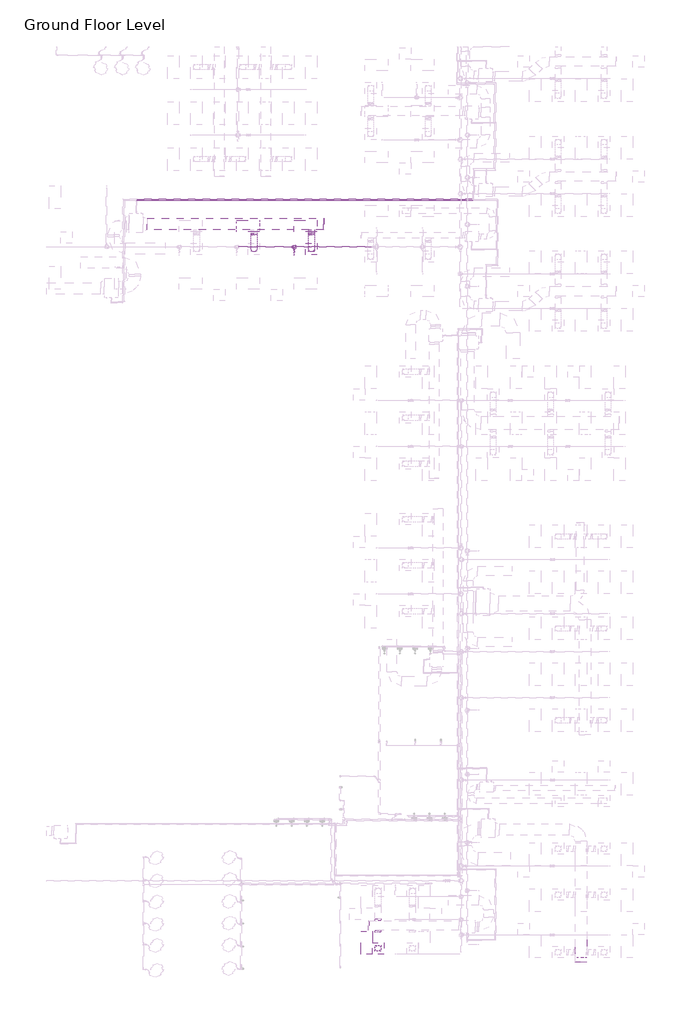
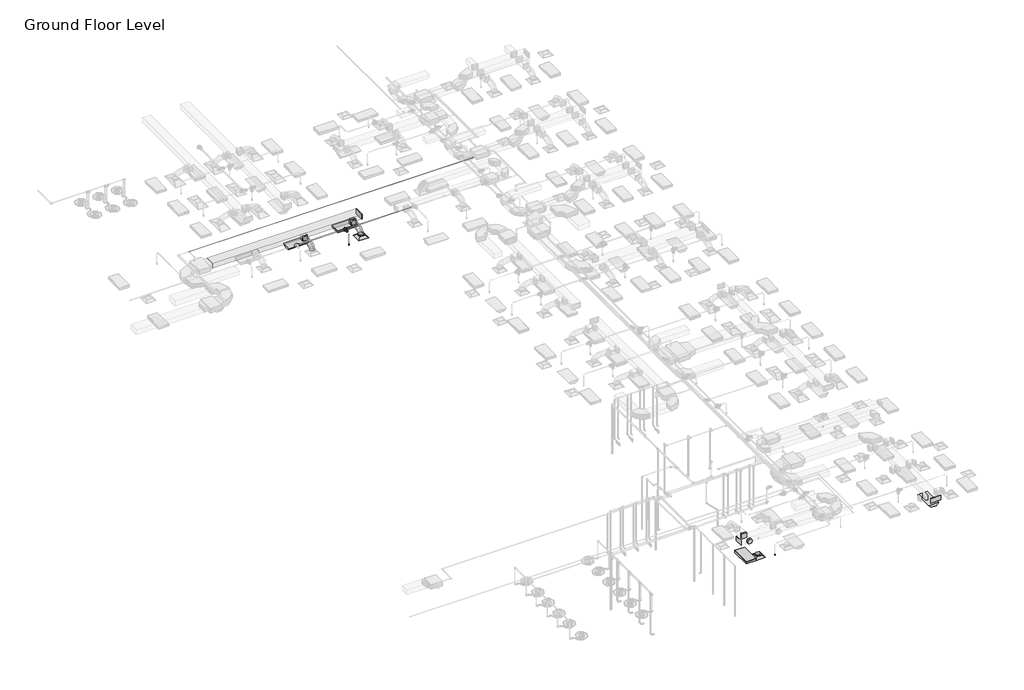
# One storey, part 13 of 72: 10 duct fittings, 6 pipe segments, 5 duct segments, 4 light fixtures, 2 air terminals, 2 fire suppression terminals, 2 pipe fittings.
"""IFC4 building model written with IfcOpenShell, lengths in millimetres."""

from ifc_helpers import new_model, si_unit, point, frame, frame_2d, origin, place, context, project, spatial, polyline, circle_curve, ellipse_curve, trimmed, segment, composite_curve, outline, extrude, transform, mapped, element, save
from ifc_brep_helpers import plane_surface, cylinder_surface, advanced_brep
from components import m_return_diffuser_600_x_600_face_300_x_300_connection_ff221211, m_rectangular_endcap_standard_72d4d00d, m_rectangular_endcap_standard_0f0ff112, m_rectangular_takeoff_standard_2be5eba1, m_rectangular_to_round_transition_angle_45_degree_641efff0, m_round_takeoff_standard_603b0510, m_sprinkler_dry_pendent_hosted_15_mm_dry_pendent_9bda8e11, m_emergency_recessed_lighting_fixture_600x1200_277_5b10b25d, m_troffer_light_parabolic_rectangular1_0600x1200mm_4_lamp_86473d4a, m_reducer_flanged_cs_class_150_standard_678fb8eb, m_tee_round_base_flanged_cs_class_150_standard_9c9133d0

model = new_model("IFC4")

# Units and contexts
model_context = context("Model", 3, world=origin())
ifc_project = project(units=[si_unit("LENGTHUNIT", "METRE", prefix="MILLI")], contexts=[model_context])

# Site, building, storey
site = spatial("IfcSite", under=ifc_project)
building = spatial("IfcBuilding", under=site)
storey = spatial("IfcBuildingStorey", under=building, Name="Ground Floor Level", Elevation=900.0)

# Air terminals
placement = place(None, origin())
m_return_diffuser_600_x_600_face_300_x_300_connection_shape = m_return_diffuser_600_x_600_face_300_x_300_connection_ff221211(model_context)
element("IfcAirTerminal", 1, ObjectType="M_Supply Diffuser : 600 x 600 Face 300 x 300 Connection", at=placement, inside=storey, context=model_context, shape_type="MappedRepresentation", body=[
    mapped(m_return_diffuser_600_x_600_face_300_x_300_connection_shape, transform((-2137.2327605, -3064.7846466, 3650.0), x_axis=(1.0, 0.0, 0.0), y_axis=(0.0, 1.0, 0.0), z_axis=(0.0, 0.0, 1.0))),
])
element("IfcAirTerminal", 2, ObjectType="M_Supply Diffuser : 600 x 600 Face 300 x 300 Connection", at=placement, inside=storey, context=model_context, shape_type="MappedRepresentation", body=[
    mapped(m_return_diffuser_600_x_600_face_300_x_300_connection_shape, transform((1342.7672394, -39564.7846466, 3650.0), x_axis=(1.0, 0.0, 0.0), y_axis=(0.0, 1.0, 0.0), z_axis=(0.0, 0.0, 1.0))),
])

# Duct fittings
m_rectangular_endcap_standard_shape = m_rectangular_endcap_standard_72d4d00d(model_context)
element("IfcDuctFitting", 3, ObjectType="M_Rectangular Endcap : Standard", at=placement, inside=storey, context=model_context, shape_type="MappedRepresentation", body=[
    mapped(m_rectangular_endcap_standard_shape, transform((877.3672394, -38372.6128682, 4100.0), x_axis=(-0.9999999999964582, 0.0, -2.6615447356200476e-06), y_axis=(0.0, -1.0000000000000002, 0.0), z_axis=(-2.6615447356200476e-06, 0.0, 0.9999999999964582))),
])
m_rectangular_endcap_standard_2_shape = m_rectangular_endcap_standard_0f0ff112(model_context)
element("IfcDuctFitting", 4, ObjectType="M_Rectangular Endcap : Standard", at=placement, inside=storey, context=model_context, shape_type="MappedRepresentation", body=[
    mapped(m_rectangular_endcap_standard_2_shape, transform((-1501.8327605, -1768.2846466, 4099.9873731), x_axis=(0.9999999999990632, 0.0, -1.368824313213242e-06), y_axis=(0.0, 1.0, 0.0), z_axis=(1.368824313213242e-06, 0.0, 0.9999999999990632))),
])
element("IfcDuctFitting", 5, ObjectType="M_Rectangular Endcap : Standard", at=placement, inside=storey, context=model_context, shape_type="MappedRepresentation", body=[
    mapped(m_rectangular_endcap_standard_2_shape, transform((11933.8644074, -40264.7726336, 4099.9875), x_axis=(0.0, -1.0, 0.0), y_axis=(1.0, 0.0, 0.0), z_axis=(0.0, 0.0, 1.0))),
])
m_rectangular_takeoff_standard_shape = m_rectangular_takeoff_standard_2be5eba1(model_context)
element("IfcDuctFitting", 6, ObjectType="M_Rectangular Takeoff : Standard", at=placement, inside=storey, context=model_context, shape_type="MappedRepresentation", body=[
    mapped(m_rectangular_takeoff_standard_shape, transform((-2137.2327605, -2068.2846466, 4099.9882429), x_axis=(0.0, -1.0, 0.0), y_axis=(-1.0, 0.0, 0.0), z_axis=(0.0, 0.0, -1.0))),
])
element("IfcDuctFitting", 7, ObjectType="M_Rectangular Takeoff : Standard", at=placement, inside=storey, context=model_context, shape_type="MappedRepresentation", body=[
    mapped(m_rectangular_takeoff_standard_shape, transform((1342.7672394, -38122.6128682, 4100.0), x_axis=(0.0, 1.0, 0.0), y_axis=(1.0, 0.0, 0.0), z_axis=(0.0, 0.0, -1.0))),
])
m_rectangular_to_round_transition_angle_45_degree_shape = m_rectangular_to_round_transition_angle_45_degree_641efff0(model_context)
element("IfcDuctFitting", 8, ObjectType="M_Rectangular to Round Transition - Angle : 45 Degree", at=placement, inside=storey, context=model_context, shape_type="MappedRepresentation", body=[
    mapped(m_rectangular_to_round_transition_angle_45_degree_shape, transform((-2137.2327605, -3064.7846466, 3751.6), x_axis=(0.0, 0.0, 1.0), y_axis=(-1.0, 0.0, 0.0), z_axis=(0.0, -1.0, 0.0))),
])
element("IfcDuctFitting", 9, ObjectType="M_Rectangular to Round Transition - Angle : 45 Degree", at=placement, inside=storey, context=model_context, shape_type="MappedRepresentation", body=[
    mapped(m_rectangular_to_round_transition_angle_45_degree_shape, transform((-2137.2327605, -2237.4369582, 4099.9882429), x_axis=(0.0, -1.0, 0.0), y_axis=(1.0, 0.0, 0.0), z_axis=(0.0, 0.0, 1.0))),
])
element("IfcDuctFitting", 10, ObjectType="M_Rectangular to Round Transition - Angle : 45 Degree", at=placement, inside=storey, context=model_context, shape_type="MappedRepresentation", body=[
    mapped(m_rectangular_to_round_transition_angle_45_degree_shape, transform((-5137.2327605, -2237.4410647, 4099.9923494), x_axis=(0.0, -1.0, 0.0), y_axis=(1.0, 0.0, 0.0), z_axis=(0.0, 0.0, 1.0))),
])
element("IfcDuctFitting", 11, ObjectType="M_Rectangular to Round Transition - Angle : 45 Degree", at=placement, inside=storey, context=model_context, shape_type="MappedRepresentation", body=[
    mapped(m_rectangular_to_round_transition_angle_45_degree_shape, transform((1342.7672394, -39564.7846466, 3751.6), x_axis=(0.0, 0.0, 1.0), y_axis=(-1.0, 0.0, 0.0), z_axis=(0.0, -1.0, 0.0))),
])
m_round_takeoff_standard_shape = m_round_takeoff_standard_603b0510(model_context)
element("IfcDuctFitting", 12, ObjectType="M_Round Takeoff : Standard", at=placement, inside=storey, context=model_context, shape_type="MappedRepresentation", body=[
    mapped(m_round_takeoff_standard_shape, transform((1342.7672394, -38622.6128682, 4100.0), x_axis=(0.0, -1.0, 0.0), y_axis=(-1.0, 0.0, 0.0), z_axis=(0.0, 0.0, -1.0))),
])

# Duct segments
element("IfcDuctSegment", 13, ObjectType="Flex - Round", at=placement, inside=storey, context=model_context, shape_type="AdvancedBrep", body=[
    advanced_brep(
    [(-1987.2327605, -3064.7846466, 3826.6), (-2137.2327605, -3214.7846466, 3826.6), (-2287.2327605, -3064.7846466, 3826.6), (-2137.2327605, -2914.7846466, 3826.6), (-1987.2327605, -3064.7846466, 3857.9382049), (-2137.2327605, -3214.7846466, 3883.5820304), (-2287.2327605, -3064.7846466, 3857.9382049), (-2137.2327605, -2914.7846466, 3832.2943795), (-1987.2327605, -3047.768388, 3906.2507872), (-2137.2327605, -3181.5056265, 3978.0678652), (-2287.2327605, -3047.768388, 3906.2507872), (-2137.2327605, -2914.0311496, 3834.4337093), (-1987.2327605, -3000.5836201, 3968.710775), (-2137.2327605, -3104.787507, 4079.622096), (-2287.2327605, -3000.5836201, 3968.710775), (-2137.2327605, -2896.3797333, 3857.7994541), (-1987.2327605, -2929.0263545, 4016.0680579), (-2137.2327605, -2997.957239, 4150.3233892), (-2287.2327605, -2929.0263545, 4016.0680579), (-2137.2327605, -2860.09547, 3881.8127266), (-1987.2327605, -2838.8926027, 4050.4107303), (-2137.2327605, -2882.4498996, 4194.3338808), (-2287.2327605, -2838.8926027, 4050.4107303), (-2137.2327605, -2795.3353058, 3906.4875799), (-1987.2327605, -2735.9783764, 4073.8268868), (-2137.2327605, -2762.5360145, 4221.6179832), (-2287.2327605, -2735.9783764, 4073.8268868), (-2137.2327605, -2709.4207382, 3926.0357904), (-1987.2327605, -2626.0796872, 4088.4046218), (-2137.2327605, -2641.2277335, 4237.7091667), (-2287.2327605, -2626.0796872, 4088.4046218), (-2137.2327605, -2610.9316408, 3939.1000769), (-1987.2327605, -2514.9925467, 4096.2320299), (-2137.2327605, -2522.4956529, 4246.0752516), (-2287.2327605, -2514.9925467, 4096.2320299), (-2137.2327605, -2507.4894404, 3946.3888082), (-1987.2327605, -2408.5129665, 4099.3972054), (-2137.2327605, -2411.2031539, 4249.3834943), (-2287.2327605, -2408.5129665, 4099.3972054), (-2137.2327605, -2405.822779, 3949.4109165), (-1987.2327605, -2312.4369582, 4099.9882429), (-2137.2327605, -2311.5142102, 3949.9910811), (-2287.2327605, -2312.4369582, 4099.9882429), (-2137.2327605, -2313.3597063, 4249.9854047)],
    [
        (0, 1, circle_curve(frame((-2137.2327605, -3064.7846466, 3826.6), z_axis=(0.0, 0.0, -1.0), x_axis=(1.0, 0.0, 0.0)), 150.0)),
        (1, 2, circle_curve(frame((-2137.2327605, -3064.7846466, 3826.6), z_axis=(0.0, 0.0, -1.0), x_axis=(1.0, 0.0, 0.0)), 150.0)),
        (2, 3, circle_curve(frame((-2137.2327605, -3064.7846466, 3826.6), z_axis=(0.0, 0.0, -1.0), x_axis=(1.0, 0.0, 0.0)), 150.0)),
        (3, 0, circle_curve(frame((-2137.2327605, -3064.7846466, 3826.6), z_axis=(0.0, 0.0, -1.0), x_axis=(1.0, 0.0, 0.0)), 150.0)),
        (0, 4),
        (4, 5, ellipse_curve(frame((-2137.2327605, -3064.7846466, 3857.9382049), z_axis=(0.0, -0.1685139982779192, -0.9856992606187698), x_axis=(0.0, 0.9856992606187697, -0.1685139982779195)), 152.1762326, 150.0)),
        (5, 1),
        (5, 6, ellipse_curve(frame((-2137.2327605, -3064.7846466, 3857.9382049), z_axis=(0.0, -0.1685139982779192, -0.9856992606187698), x_axis=(0.0, 0.9856992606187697, -0.1685139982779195)), 152.1762326, 150.0)),
        (6, 2),
        (6, 7, ellipse_curve(frame((-2137.2327605, -3064.7846466, 3857.9382049), z_axis=(0.0, -0.1685139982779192, -0.9856992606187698), x_axis=(0.0, 0.9856992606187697, -0.1685139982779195)), 152.1762326, 150.0)),
        (7, 3),
        (7, 4, ellipse_curve(frame((-2137.2327605, -3064.7846466, 3857.9382049), z_axis=(0.0, -0.1685139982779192, -0.9856992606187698), x_axis=(0.0, 0.9856992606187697, -0.1685139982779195)), 152.1762326, 150.0)),
        (4, 8),
        (8, 9, ellipse_curve(frame((-2137.2327605, -3047.768388, 3906.2507872), z_axis=(0.0, -0.4731022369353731, -0.8810075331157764), x_axis=(0.0, 0.8810075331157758, -0.47310223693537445)), 151.8003348, 150.0)),
        (9, 5),
        (9, 10, ellipse_curve(frame((-2137.2327605, -3047.768388, 3906.2507872), z_axis=(0.0, -0.4731022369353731, -0.8810075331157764), x_axis=(0.0, 0.8810075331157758, -0.47310223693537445)), 151.8003348, 150.0)),
        (10, 6),
        (10, 11, ellipse_curve(frame((-2137.2327605, -3047.768388, 3906.2507872), z_axis=(0.0, -0.4731022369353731, -0.8810075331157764), x_axis=(0.0, 0.8810075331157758, -0.47310223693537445)), 151.8003348, 150.0)),
        (11, 7),
        (11, 8, ellipse_curve(frame((-2137.2327605, -3047.768388, 3906.2507872), z_axis=(0.0, -0.4731022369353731, -0.8810075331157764), x_axis=(0.0, 0.8810075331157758, -0.47310223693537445)), 151.8003348, 150.0)),
        (8, 12),
        (12, 13, ellipse_curve(frame((-2137.2327605, -3000.5836201, 3968.710775), z_axis=(0.0, -0.728800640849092, -0.6847259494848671), x_axis=(0.0, 0.6847259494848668, -0.7288006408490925)), 152.1833472, 150.0)),
        (13, 9),
        (13, 14, ellipse_curve(frame((-2137.2327605, -3000.5836201, 3968.710775), z_axis=(0.0, -0.728800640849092, -0.6847259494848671), x_axis=(0.0, 0.6847259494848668, -0.7288006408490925)), 152.1833472, 150.0)),
        (14, 10),
        (14, 15, ellipse_curve(frame((-2137.2327605, -3000.5836201, 3968.710775), z_axis=(0.0, -0.728800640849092, -0.6847259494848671), x_axis=(0.0, 0.6847259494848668, -0.7288006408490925)), 152.1833472, 150.0)),
        (15, 11),
        (15, 12, ellipse_curve(frame((-2137.2327605, -3000.5836201, 3968.710775), z_axis=(0.0, -0.728800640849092, -0.6847259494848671), x_axis=(0.0, 0.6847259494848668, -0.7288006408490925)), 152.1833472, 150.0)),
        (12, 16),
        (16, 17, ellipse_curve(frame((-2137.2327605, -2929.0263545, 4016.0680579), z_axis=(0.0, -0.8895967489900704, -0.456746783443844), x_axis=(0.0, 0.45674678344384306, -0.8895967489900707)), 150.917066, 150.0)),
        (17, 13),
        (17, 18, ellipse_curve(frame((-2137.2327605, -2929.0263545, 4016.0680579), z_axis=(0.0, -0.8895967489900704, -0.456746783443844), x_axis=(0.0, 0.45674678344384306, -0.8895967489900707)), 150.917066, 150.0)),
        (18, 14),
        (18, 19, ellipse_curve(frame((-2137.2327605, -2929.0263545, 4016.0680579), z_axis=(0.0, -0.8895967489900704, -0.456746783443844), x_axis=(0.0, 0.45674678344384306, -0.8895967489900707)), 150.917066, 150.0)),
        (19, 15),
        (19, 16, ellipse_curve(frame((-2137.2327605, -2929.0263545, 4016.0680579), z_axis=(0.0, -0.8895967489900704, -0.456746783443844), x_axis=(0.0, 0.45674678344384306, -0.8895967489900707)), 150.917066, 150.0)),
        (16, 20),
        (20, 21, ellipse_curve(frame((-2137.2327605, -2838.8926027, 4050.4107303), z_axis=(0.0, -0.9571272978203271, -0.2896676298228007), x_axis=(0.0, 0.28966762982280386, -0.957127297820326)), 150.369915, 150.0)),
        (21, 17),
        (21, 22, ellipse_curve(frame((-2137.2327605, -2838.8926027, 4050.4107303), z_axis=(0.0, -0.9571272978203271, -0.2896676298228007), x_axis=(0.0, 0.28966762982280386, -0.957127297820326)), 150.369915, 150.0)),
        (22, 18),
        (22, 23, ellipse_curve(frame((-2137.2327605, -2838.8926027, 4050.4107303), z_axis=(0.0, -0.9571272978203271, -0.2896676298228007), x_axis=(0.0, 0.28966762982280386, -0.957127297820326)), 150.369915, 150.0)),
        (23, 19),
        (23, 20, ellipse_curve(frame((-2137.2327605, -2838.8926027, 4050.4107303), z_axis=(0.0, -0.9571272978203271, -0.2896676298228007), x_axis=(0.0, 0.28966762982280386, -0.957127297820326)), 150.369915, 150.0)),
        (20, 24),
        (24, 25, ellipse_curve(frame((-2137.2327605, -2735.9783764, 4073.8268868), z_axis=(0.0, -0.9842352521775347, -0.1768642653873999), x_axis=(0.0, 0.1768642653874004, -0.9842352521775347)), 150.1583042, 150.0)),
        (25, 21),
        (25, 26, ellipse_curve(frame((-2137.2327605, -2735.9783764, 4073.8268868), z_axis=(0.0, -0.9842352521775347, -0.1768642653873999), x_axis=(0.0, 0.1768642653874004, -0.9842352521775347)), 150.1583042, 150.0)),
        (26, 22),
        (26, 27, ellipse_curve(frame((-2137.2327605, -2735.9783764, 4073.8268868), z_axis=(0.0, -0.9842352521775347, -0.1768642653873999), x_axis=(0.0, 0.1768642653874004, -0.9842352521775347)), 150.1583042, 150.0)),
        (27, 23),
        (27, 24, ellipse_curve(frame((-2137.2327605, -2735.9783764, 4073.8268868), z_axis=(0.0, -0.9842352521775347, -0.1768642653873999), x_axis=(0.0, 0.1768642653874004, -0.9842352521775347)), 150.1583042, 150.0)),
        (24, 28),
        (28, 29, ellipse_curve(frame((-2137.2327605, -2626.0796872, 4088.4046218), z_axis=(0.0, -0.9948925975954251, -0.10093918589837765), x_axis=(0.0, 0.10093918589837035, -0.9948925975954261)), 150.071018, 150.0)),
        (29, 25),
        (29, 30, ellipse_curve(frame((-2137.2327605, -2626.0796872, 4088.4046218), z_axis=(0.0, -0.9948925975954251, -0.10093918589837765), x_axis=(0.0, 0.10093918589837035, -0.9948925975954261)), 150.071018, 150.0)),
        (30, 26),
        (30, 31, ellipse_curve(frame((-2137.2327605, -2626.0796872, 4088.4046218), z_axis=(0.0, -0.9948925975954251, -0.10093918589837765), x_axis=(0.0, 0.10093918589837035, -0.9948925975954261)), 150.071018, 150.0)),
        (31, 27),
        (31, 28, ellipse_curve(frame((-2137.2327605, -2626.0796872, 4088.4046218), z_axis=(0.0, -0.9948925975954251, -0.10093918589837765), x_axis=(0.0, 0.10093918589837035, -0.9948925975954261)), 150.071018, 150.0)),
        (28, 32),
        (32, 33, ellipse_curve(frame((-2137.2327605, -2514.9925467, 4096.2320299), z_axis=(0.0, -0.9987486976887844, -0.050010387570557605), x_axis=(0.0, 0.05001038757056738, -0.9987486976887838)), 150.0309558, 150.0)),
        (33, 29),
        (33, 34, ellipse_curve(frame((-2137.2327605, -2514.9925467, 4096.2320299), z_axis=(0.0, -0.9987486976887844, -0.050010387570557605), x_axis=(0.0, 0.05001038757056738, -0.9987486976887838)), 150.0309558, 150.0)),
        (34, 30),
        (34, 35, ellipse_curve(frame((-2137.2327605, -2514.9925467, 4096.2320299), z_axis=(0.0, -0.9987486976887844, -0.050010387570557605), x_axis=(0.0, 0.05001038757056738, -0.9987486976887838)), 150.0309558, 150.0)),
        (35, 31),
        (35, 32, ellipse_curve(frame((-2137.2327605, -2514.9925467, 4096.2320299), z_axis=(0.0, -0.9987486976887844, -0.050010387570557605), x_axis=(0.0, 0.05001038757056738, -0.9987486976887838)), 150.0309558, 150.0)),
        (32, 36),
        (36, 37, ellipse_curve(frame((-2137.2327605, -2408.5129665, 4099.3972054), z_axis=(0.0, -0.9998391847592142, -0.017933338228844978), x_axis=(0.0, 0.017933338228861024, -0.9998391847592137)), 150.0104128, 150.0)),
        (37, 33),
        (37, 38, ellipse_curve(frame((-2137.2327605, -2408.5129665, 4099.3972054), z_axis=(0.0, -0.9998391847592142, -0.017933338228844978), x_axis=(0.0, 0.017933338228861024, -0.9998391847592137)), 150.0104128, 150.0)),
        (38, 34),
        (38, 39, ellipse_curve(frame((-2137.2327605, -2408.5129665, 4099.3972054), z_axis=(0.0, -0.9998391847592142, -0.017933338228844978), x_axis=(0.0, 0.017933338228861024, -0.9998391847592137)), 150.0104128, 150.0)),
        (39, 35),
        (39, 36, ellipse_curve(frame((-2137.2327605, -2408.5129665, 4099.3972054), z_axis=(0.0, -0.9998391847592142, -0.017933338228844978), x_axis=(0.0, 0.017933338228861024, -0.9998391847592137)), 150.0104128, 150.0)),
        (40, 41, circle_curve(frame((-2137.2327605, -2312.4369582, 4099.9882429), z_axis=(0.0, 0.9999810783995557, 0.006151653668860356), x_axis=(1.0, 0.0, 0.0)), 150.0)),
        (41, 42, circle_curve(frame((-2137.2327605, -2312.4369582, 4099.9882429), z_axis=(0.0, 0.9999810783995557, 0.006151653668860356), x_axis=(1.0, 0.0, 0.0)), 150.0)),
        (42, 43, circle_curve(frame((-2137.2327605, -2312.4369582, 4099.9882429), z_axis=(0.0, 0.9999810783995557, 0.006151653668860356), x_axis=(1.0, 0.0, 0.0)), 150.0)),
        (43, 40, circle_curve(frame((-2137.2327605, -2312.4369582, 4099.9882429), z_axis=(0.0, 0.9999810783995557, 0.006151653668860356), x_axis=(1.0, 0.0, 0.0)), 150.0)),
        (36, 40),
        (43, 37),
        (42, 38),
        (41, 39),
    ],
    [
        plane_surface(frame((-2137.2327605, -3214.7846466, 3826.6), z_axis=(0.0, 0.0, -1.0), x_axis=(1.0, 0.0, 0.0))),
        cylinder_surface(frame((-2137.2327605, -3064.7846466, 3826.6), z_axis=(0.0, 0.0, -1.0), x_axis=(1.0, 0.0, 0.0)), 150.0),
        cylinder_surface(frame((-2137.2327605, -3064.7846466, 3857.9382049), z_axis=(0.0, -0.33220824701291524, -0.9432060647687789), x_axis=(1.0, 0.0, 0.0)), 150.0),
        cylinder_surface(frame((-2137.2327605, -3047.768388, 3906.2507872), z_axis=(0.0, -0.6027743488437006, -0.7979117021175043), x_axis=(1.0, 0.0, 0.0)), 150.0),
        cylinder_surface(frame((-2137.2327605, -3000.5836201, 3968.710775), z_axis=(0.0, -0.83391498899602, -0.5518929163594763), x_axis=(1.0, 0.0, 0.0)), 150.0),
        cylinder_surface(frame((-2137.2327605, -2929.0263545, 4016.0680579), z_axis=(0.0, -0.9344670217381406, -0.3560496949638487), x_axis=(1.0, 0.0, 0.0)), 150.0),
        cylinder_surface(frame((-2137.2327605, -2838.8926027, 4050.4107303), z_axis=(0.0, -0.9750784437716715, -0.2218603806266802), x_axis=(1.0, 0.0, 0.0)), 150.0),
        cylinder_surface(frame((-2137.2327605, -2735.9783764, 4073.8268868), z_axis=(0.0, -0.9913168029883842, -0.13149523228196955), x_axis=(1.0, 0.0, 0.0)), 150.0),
        cylinder_surface(frame((-2137.2327605, -2626.0796872, 4088.4046218), z_axis=(0.0, -0.9975267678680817, -0.07028760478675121), x_axis=(1.0, 0.0, 0.0)), 150.0),
        cylinder_surface(frame((-2137.2327605, -2514.9925467, 4096.2320299), z_axis=(0.0, -0.9995584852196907, -0.02971253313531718), x_axis=(1.0, 0.0, 0.0)), 150.0),
        plane_surface(frame((-2137.2327605, -2313.3597063, 4249.9854047), z_axis=(0.0, 0.9999810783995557, 0.006151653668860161), x_axis=(1.0, 0.0, 0.0))),
        cylinder_surface(frame((-2137.2327605, -2408.5129665, 4099.3972054), z_axis=(0.0, -0.9999810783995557, -0.006151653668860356), x_axis=(1.0, 0.0, 0.0)), 150.0),
    ],
    [
        (0, [[1, 2, 3, 4]]),
        (1, [[-1, 5, 6, 7]]),
        (1, [[-2, -7, 8, 9]]),
        (1, [[-3, -9, 10, 11]]),
        (1, [[-4, -11, 12, -5]]),
        (2, [[-6, 13, 14, 15]]),
        (2, [[-8, -15, 16, 17]]),
        (2, [[-10, -17, 18, 19]]),
        (2, [[-12, -19, 20, -13]]),
        (3, [[-14, 21, 22, 23]]),
        (3, [[-16, -23, 24, 25]]),
        (3, [[-18, -25, 26, 27]]),
        (3, [[-20, -27, 28, -21]]),
        (4, [[-22, 29, 30, 31]]),
        (4, [[-24, -31, 32, 33]]),
        (4, [[-26, -33, 34, 35]]),
        (4, [[-28, -35, 36, -29]]),
        (5, [[-30, 37, 38, 39]]),
        (5, [[-32, -39, 40, 41]]),
        (5, [[-34, -41, 42, 43]]),
        (5, [[-36, -43, 44, -37]]),
        (6, [[-38, 45, 46, 47]]),
        (6, [[-40, -47, 48, 49]]),
        (6, [[-42, -49, 50, 51]]),
        (6, [[-44, -51, 52, -45]]),
        (7, [[-46, 53, 54, 55]]),
        (7, [[-48, -55, 56, 57]]),
        (7, [[-50, -57, 58, 59]]),
        (7, [[-52, -59, 60, -53]]),
        (8, [[-54, 61, 62, 63]]),
        (8, [[-56, -63, 64, 65]]),
        (8, [[-58, -65, 66, 67]]),
        (8, [[-60, -67, 68, -61]]),
        (9, [[-62, 69, 70, 71]]),
        (9, [[-64, -71, 72, 73]]),
        (9, [[-66, -73, 74, 75]]),
        (9, [[-68, -75, 76, -69]]),
        (10, [[77, 78, 79, 80]]),
        (11, [[-70, 81, -80, 82]]),
        (11, [[-72, -82, -79, 83]]),
        (11, [[-74, -83, -78, 84]]),
        (11, [[-76, -84, -77, -81]]),
    ],
),
])
element("IfcDuctSegment", 14, ObjectType="Flex - Round", at=placement, inside=storey, context=model_context, shape_type="AdvancedBrep", body=[
    advanced_brep(
    [(-4987.2327605, -3064.7846466, 3826.6), (-5137.2327605, -3214.7846466, 3826.6), (-5287.2327605, -3064.7846466, 3826.6), (-5137.2327605, -2914.7846466, 3826.6), (-4987.2327605, -3064.7846466, 3857.9380326), (-5137.2327605, -3214.7846466, 3883.5816473), (-5287.2327605, -3064.7846466, 3857.9380326), (-5137.2327605, -2914.7846466, 3832.2944178), (-4987.2327605, -3047.7685019, 3906.2507123), (-5137.2327605, -3181.505999, 3978.0672475), (-5287.2327605, -3047.7685019, 3906.2507123), (-5137.2327605, -2914.0310048, 3834.4341772), (-4987.2327605, -3000.584044, 3968.710963), (-5137.2327605, -3104.7886338, 4079.6215744), (-5287.2327605, -3000.584044, 3968.710963), (-5137.2327605, -2896.3794543, 3857.8003516), (-4987.2327605, -2929.0272371, 4016.0687585), (-5137.2327605, -2997.9592292, 4150.3235149), (-5287.2327605, -2929.0272371, 4016.0687585), (-5137.2327605, -2860.095245, 3881.8140022), (-4987.2327605, -2838.8940455, 4050.4121057), (-5137.2327605, -2882.4525531, 4194.3348919), (-5287.2327605, -2838.8940455, 4050.4121057), (-5137.2327605, -2795.3355379, 3906.4893195), (-4987.2327605, -2735.9804334, 4073.8290112), (-5137.2327605, -2762.5392192, 4221.6199045), (-5287.2327605, -2735.9804334, 4073.8290112), (-5137.2327605, -2709.4216475, 3926.0381179), (-4987.2327605, -2626.082365, 4088.4074817), (-5137.2327605, -2641.2314089, 4237.7119283), (-5287.2327605, -2626.082365, 4088.4074817), (-5137.2327605, -2610.9333211, 3939.103035), (-4987.2327605, -2514.9958046, 4096.2355237), (-5137.2327605, -2522.4996869, 4246.0787092), (-5287.2327605, -2514.9958046, 4096.2355237), (-5137.2327605, -2507.4919223, 3946.3923382), (-4987.2327605, -2408.5167164, 4099.4011441), (-5137.2327605, -2411.2073599, 4249.387427), (-5287.2327605, -2408.5167164, 4099.4011441), (-5137.2327605, -2405.8260729, 3949.4148611), (-4987.2327605, -2312.4410647, 4099.9923494), (-5137.2327605, -2311.5180513, 3949.9951892), (-5287.2327605, -2312.4410647, 4099.9923494), (-5137.2327605, -2313.3640781, 4249.9895095)],
    [
        (0, 1, circle_curve(frame((-5137.2327605, -3064.7846466, 3826.6), z_axis=(0.0, 0.0, -1.0), x_axis=(1.0, 0.0, 0.0)), 150.0)),
        (1, 2, circle_curve(frame((-5137.2327605, -3064.7846466, 3826.6), z_axis=(0.0, 0.0, -1.0), x_axis=(1.0, 0.0, 0.0)), 150.0)),
        (2, 3, circle_curve(frame((-5137.2327605, -3064.7846466, 3826.6), z_axis=(0.0, 0.0, -1.0), x_axis=(1.0, 0.0, 0.0)), 150.0)),
        (3, 0, circle_curve(frame((-5137.2327605, -3064.7846466, 3826.6), z_axis=(0.0, 0.0, -1.0), x_axis=(1.0, 0.0, 0.0)), 150.0)),
        (0, 4),
        (4, 5, ellipse_curve(frame((-5137.2327605, -3064.7846466, 3857.9380326), z_axis=(0.0, -0.16851265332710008, -0.9856994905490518), x_axis=(0.0, 0.9856994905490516, -0.16851265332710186)), 152.1761971, 150.0)),
        (5, 1),
        (5, 6, ellipse_curve(frame((-5137.2327605, -3064.7846466, 3857.9380326), z_axis=(0.0, -0.16851265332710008, -0.9856994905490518), x_axis=(0.0, 0.9856994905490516, -0.16851265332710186)), 152.1761971, 150.0)),
        (6, 2),
        (6, 7, ellipse_curve(frame((-5137.2327605, -3064.7846466, 3857.9380326), z_axis=(0.0, -0.16851265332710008, -0.9856994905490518), x_axis=(0.0, 0.9856994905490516, -0.16851265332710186)), 152.1761971, 150.0)),
        (7, 3),
        (7, 4, ellipse_curve(frame((-5137.2327605, -3064.7846466, 3857.9380326), z_axis=(0.0, -0.16851265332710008, -0.9856994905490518), x_axis=(0.0, 0.9856994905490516, -0.16851265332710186)), 152.1761971, 150.0)),
        (4, 8),
        (8, 9, ellipse_curve(frame((-5137.2327605, -3047.7685019, 3906.2507123), z_axis=(0.0, -0.47309875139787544, -0.881009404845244), x_axis=(0.0, 0.8810094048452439, -0.47309875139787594)), 151.8003058, 150.0)),
        (9, 5),
        (9, 10, ellipse_curve(frame((-5137.2327605, -3047.7685019, 3906.2507123), z_axis=(0.0, -0.47309875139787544, -0.881009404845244), x_axis=(0.0, 0.8810094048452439, -0.47309875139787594)), 151.8003058, 150.0)),
        (10, 6),
        (10, 11, ellipse_curve(frame((-5137.2327605, -3047.7685019, 3906.2507123), z_axis=(0.0, -0.47309875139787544, -0.881009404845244), x_axis=(0.0, 0.8810094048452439, -0.47309875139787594)), 151.8003058, 150.0)),
        (11, 7),
        (11, 8, ellipse_curve(frame((-5137.2327605, -3047.7685019, 3906.2507123), z_axis=(0.0, -0.47309875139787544, -0.881009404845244), x_axis=(0.0, 0.8810094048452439, -0.47309875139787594)), 151.8003058, 150.0)),
        (8, 12),
        (12, 13, ellipse_curve(frame((-5137.2327605, -3000.584044, 3968.710963), z_axis=(0.0, -0.7287961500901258, -0.6847307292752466), x_axis=(0.0, 0.6847307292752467, -0.7287961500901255)), 152.1833113, 150.0)),
        (13, 9),
        (13, 14, ellipse_curve(frame((-5137.2327605, -3000.584044, 3968.710963), z_axis=(0.0, -0.7287961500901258, -0.6847307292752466), x_axis=(0.0, 0.6847307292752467, -0.7287961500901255)), 152.1833113, 150.0)),
        (14, 10),
        (14, 15, ellipse_curve(frame((-5137.2327605, -3000.584044, 3968.710963), z_axis=(0.0, -0.7287961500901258, -0.6847307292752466), x_axis=(0.0, 0.6847307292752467, -0.7287961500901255)), 152.1833113, 150.0)),
        (15, 11),
        (15, 12, ellipse_curve(frame((-5137.2327605, -3000.584044, 3968.710963), z_axis=(0.0, -0.7287961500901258, -0.6847307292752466), x_axis=(0.0, 0.6847307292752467, -0.7287961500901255)), 152.1833113, 150.0)),
        (12, 16),
        (16, 17, ellipse_curve(frame((-5137.2327605, -2929.0272371, 4016.0687585), z_axis=(0.0, -0.8895929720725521, -0.4567541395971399), x_axis=(0.0, 0.45675413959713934, -0.8895929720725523)), 150.9170604, 150.0)),
        (17, 13),
        (17, 18, ellipse_curve(frame((-5137.2327605, -2929.0272371, 4016.0687585), z_axis=(0.0, -0.8895929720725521, -0.4567541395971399), x_axis=(0.0, 0.45675413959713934, -0.8895929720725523)), 150.9170604, 150.0)),
        (18, 14),
        (18, 19, ellipse_curve(frame((-5137.2327605, -2929.0272371, 4016.0687585), z_axis=(0.0, -0.8895929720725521, -0.4567541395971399), x_axis=(0.0, 0.45675413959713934, -0.8895929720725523)), 150.9170604, 150.0)),
        (19, 15),
        (19, 16, ellipse_curve(frame((-5137.2327605, -2929.0272371, 4016.0687585), z_axis=(0.0, -0.8895929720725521, -0.4567541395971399), x_axis=(0.0, 0.45675413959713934, -0.8895929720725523)), 150.9170604, 150.0)),
        (16, 20),
        (20, 21, ellipse_curve(frame((-5137.2327605, -2838.8940455, 4050.4121057), z_axis=(0.0, -0.9571248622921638, -0.2896756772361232), x_axis=(0.0, 0.28967567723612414, -0.9571248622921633)), 150.3699171, 150.0)),
        (21, 17),
        (21, 22, ellipse_curve(frame((-5137.2327605, -2838.8940455, 4050.4121057), z_axis=(0.0, -0.9571248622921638, -0.2896756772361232), x_axis=(0.0, 0.28967567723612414, -0.9571248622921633)), 150.3699171, 150.0)),
        (22, 18),
        (22, 23, ellipse_curve(frame((-5137.2327605, -2838.8940455, 4050.4121057), z_axis=(0.0, -0.9571248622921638, -0.2896756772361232), x_axis=(0.0, 0.28967567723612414, -0.9571248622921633)), 150.3699171, 150.0)),
        (23, 19),
        (23, 20, ellipse_curve(frame((-5137.2327605, -2838.8940455, 4050.4121057), z_axis=(0.0, -0.9571248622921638, -0.2896756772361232), x_axis=(0.0, 0.28967567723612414, -0.9571248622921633)), 150.3699171, 150.0)),
        (20, 24),
        (24, 25, ellipse_curve(frame((-5137.2327605, -2735.9804334, 4073.8290112), z_axis=(0.0, -0.984233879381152, -0.17687190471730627), x_axis=(0.0, 0.17687190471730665, -0.984233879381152)), 150.1583073, 150.0)),
        (25, 21),
        (25, 26, ellipse_curve(frame((-5137.2327605, -2735.9804334, 4073.8290112), z_axis=(0.0, -0.984233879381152, -0.17687190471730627), x_axis=(0.0, 0.17687190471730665, -0.984233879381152)), 150.1583073, 150.0)),
        (26, 22),
        (26, 27, ellipse_curve(frame((-5137.2327605, -2735.9804334, 4073.8290112), z_axis=(0.0, -0.984233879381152, -0.17687190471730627), x_axis=(0.0, 0.17687190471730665, -0.984233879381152)), 150.1583073, 150.0)),
        (27, 23),
        (27, 24, ellipse_curve(frame((-5137.2327605, -2735.9804334, 4073.8290112), z_axis=(0.0, -0.984233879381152, -0.17687190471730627), x_axis=(0.0, 0.17687190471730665, -0.984233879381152)), 150.1583073, 150.0)),
        (24, 28),
        (28, 29, ellipse_curve(frame((-5137.2327605, -2626.082365, 4088.4074817), z_axis=(0.0, -0.9948919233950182, -0.1009458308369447), x_axis=(0.0, 0.10094583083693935, -0.9948919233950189)), 150.0710209, 150.0)),
        (29, 25),
        (29, 30, ellipse_curve(frame((-5137.2327605, -2626.082365, 4088.4074817), z_axis=(0.0, -0.9948919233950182, -0.1009458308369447), x_axis=(0.0, 0.10094583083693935, -0.9948919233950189)), 150.0710209, 150.0)),
        (30, 26),
        (30, 31, ellipse_curve(frame((-5137.2327605, -2626.082365, 4088.4074817), z_axis=(0.0, -0.9948919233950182, -0.1009458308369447), x_axis=(0.0, 0.10094583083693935, -0.9948919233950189)), 150.0710209, 150.0)),
        (31, 27),
        (31, 28, ellipse_curve(frame((-5137.2327605, -2626.082365, 4088.4074817), z_axis=(0.0, -0.9948919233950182, -0.1009458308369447), x_axis=(0.0, 0.10094583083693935, -0.9948919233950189)), 150.0710209, 150.0)),
        (28, 32),
        (32, 33, ellipse_curve(frame((-5137.2327605, -2514.9958046, 4096.2355237), z_axis=(0.0, -0.9987484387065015, -0.05001555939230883), x_axis=(0.0, 0.05001555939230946, -0.9987484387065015)), 150.0309584, 150.0)),
        (33, 29),
        (33, 34, ellipse_curve(frame((-5137.2327605, -2514.9958046, 4096.2355237), z_axis=(0.0, -0.9987484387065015, -0.05001555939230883), x_axis=(0.0, 0.05001555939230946, -0.9987484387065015)), 150.0309584, 150.0)),
        (34, 30),
        (34, 35, ellipse_curve(frame((-5137.2327605, -2514.9958046, 4096.2355237), z_axis=(0.0, -0.9987484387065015, -0.05001555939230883), x_axis=(0.0, 0.05001555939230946, -0.9987484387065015)), 150.0309584, 150.0)),
        (35, 31),
        (35, 32, ellipse_curve(frame((-5137.2327605, -2514.9958046, 4096.2355237), z_axis=(0.0, -0.9987484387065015, -0.05001555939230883), x_axis=(0.0, 0.05001555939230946, -0.9987484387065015)), 150.0309584, 150.0)),
        (32, 36),
        (36, 37, ellipse_curve(frame((-5137.2327605, -2408.5167164, 4099.4011441), z_axis=(0.0, -0.9998391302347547, -0.01793637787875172), x_axis=(0.0, 0.017936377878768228, -0.9998391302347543)), 150.0104151, 150.0)),
        (37, 33),
        (37, 38, ellipse_curve(frame((-5137.2327605, -2408.5167164, 4099.4011441), z_axis=(0.0, -0.9998391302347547, -0.01793637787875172), x_axis=(0.0, 0.017936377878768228, -0.9998391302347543)), 150.0104151, 150.0)),
        (38, 34),
        (38, 39, ellipse_curve(frame((-5137.2327605, -2408.5167164, 4099.4011441), z_axis=(0.0, -0.9998391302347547, -0.01793637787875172), x_axis=(0.0, 0.017936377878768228, -0.9998391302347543)), 150.0104151, 150.0)),
        (39, 35),
        (39, 36, ellipse_curve(frame((-5137.2327605, -2408.5167164, 4099.4011441), z_axis=(0.0, -0.9998391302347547, -0.01793637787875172), x_axis=(0.0, 0.017936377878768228, -0.9998391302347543)), 150.0104151, 150.0)),
        (40, 41, circle_curve(frame((-5137.2327605, -2312.4410647, 4099.9923494), z_axis=(0.0, 0.9999810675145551, 0.0061534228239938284), x_axis=(1.0, 0.0, 0.0)), 150.0)),
        (41, 42, circle_curve(frame((-5137.2327605, -2312.4410647, 4099.9923494), z_axis=(0.0, 0.9999810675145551, 0.0061534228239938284), x_axis=(1.0, 0.0, 0.0)), 150.0)),
        (42, 43, circle_curve(frame((-5137.2327605, -2312.4410647, 4099.9923494), z_axis=(0.0, 0.9999810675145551, 0.0061534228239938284), x_axis=(1.0, 0.0, 0.0)), 150.0)),
        (43, 40, circle_curve(frame((-5137.2327605, -2312.4410647, 4099.9923494), z_axis=(0.0, 0.9999810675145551, 0.0061534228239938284), x_axis=(1.0, 0.0, 0.0)), 150.0)),
        (36, 40),
        (43, 37),
        (42, 38),
        (41, 39),
    ],
    [
        plane_surface(frame((-5137.2327605, -3214.7846466, 3826.6), z_axis=(0.0, 0.0, -1.0), x_axis=(1.0, 0.0, 0.0))),
        cylinder_surface(frame((-5137.2327605, -3064.7846466, 3826.6), z_axis=(0.0, 0.0, -1.0), x_axis=(1.0, 0.0, 0.0)), 150.0),
        cylinder_surface(frame((-5137.2327605, -3064.7846466, 3857.9380326), z_axis=(0.0, -0.33220567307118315, -0.9432069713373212), x_axis=(1.0, 0.0, 0.0)), 150.0),
        cylinder_surface(frame((-5137.2327605, -3047.7685019, 3906.2507123), z_axis=(0.0, -0.6027702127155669, -0.797914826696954), x_axis=(1.0, 0.0, 0.0)), 150.0),
        cylinder_surface(frame((-5137.2327605, -3000.584044, 3968.710963), z_axis=(0.0, -0.8339106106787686, -0.5518995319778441), x_axis=(1.0, 0.0, 0.0)), 150.0),
        cylinder_surface(frame((-5137.2327605, -2929.0272371, 4016.0687585), z_axis=(0.0, -0.9344639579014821, -0.3560577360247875), x_axis=(1.0, 0.0, 0.0)), 150.0),
        cylinder_surface(frame((-5137.2327605, -2838.8940455, 4050.4121057), z_axis=(0.0, -0.9750766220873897, -0.22186838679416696), x_axis=(1.0, 0.0, 0.0)), 150.0),
        cylinder_surface(frame((-5137.2327605, -2735.9804334, 4073.8290112), z_axis=(0.0, -0.9913158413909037, -0.13150248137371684), x_axis=(1.0, 0.0, 0.0)), 150.0),
        cylinder_surface(frame((-5137.2327605, -2626.082365, 4088.4074817), z_axis=(0.0, -0.9975263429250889, -0.07029363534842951), x_axis=(1.0, 0.0, 0.0)), 150.0),
        cylinder_surface(frame((-5137.2327605, -2514.9958046, 4096.2355237), z_axis=(0.0, -0.9995583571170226, -0.029716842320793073), x_axis=(1.0, 0.0, 0.0)), 150.0),
        plane_surface(frame((-5137.2327605, -2313.3640781, 4249.9895095), z_axis=(0.0, 0.9999810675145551, 0.006153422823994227), x_axis=(1.0, 0.0, 0.0))),
        cylinder_surface(frame((-5137.2327605, -2408.5167164, 4099.4011441), z_axis=(0.0, -0.9999810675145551, -0.0061534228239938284), x_axis=(1.0, 0.0, 0.0)), 150.0),
    ],
    [
        (0, [[1, 2, 3, 4]]),
        (1, [[-1, 5, 6, 7]]),
        (1, [[-2, -7, 8, 9]]),
        (1, [[-3, -9, 10, 11]]),
        (1, [[-4, -11, 12, -5]]),
        (2, [[-6, 13, 14, 15]]),
        (2, [[-8, -15, 16, 17]]),
        (2, [[-10, -17, 18, 19]]),
        (2, [[-12, -19, 20, -13]]),
        (3, [[-14, 21, 22, 23]]),
        (3, [[-16, -23, 24, 25]]),
        (3, [[-18, -25, 26, 27]]),
        (3, [[-20, -27, 28, -21]]),
        (4, [[-22, 29, 30, 31]]),
        (4, [[-24, -31, 32, 33]]),
        (4, [[-26, -33, 34, 35]]),
        (4, [[-28, -35, 36, -29]]),
        (5, [[-30, 37, 38, 39]]),
        (5, [[-32, -39, 40, 41]]),
        (5, [[-34, -41, 42, 43]]),
        (5, [[-36, -43, 44, -37]]),
        (6, [[-38, 45, 46, 47]]),
        (6, [[-40, -47, 48, 49]]),
        (6, [[-42, -49, 50, 51]]),
        (6, [[-44, -51, 52, -45]]),
        (7, [[-46, 53, 54, 55]]),
        (7, [[-48, -55, 56, 57]]),
        (7, [[-50, -57, 58, 59]]),
        (7, [[-52, -59, 60, -53]]),
        (8, [[-54, 61, 62, 63]]),
        (8, [[-56, -63, 64, 65]]),
        (8, [[-58, -65, 66, 67]]),
        (8, [[-60, -67, 68, -61]]),
        (9, [[-62, 69, 70, 71]]),
        (9, [[-64, -71, 72, 73]]),
        (9, [[-66, -73, 74, 75]]),
        (9, [[-68, -75, 76, -69]]),
        (10, [[77, 78, 79, 80]]),
        (11, [[-70, 81, -80, 82]]),
        (11, [[-72, -82, -79, 83]]),
        (11, [[-74, -83, -78, 84]]),
        (11, [[-76, -84, -77, -81]]),
    ],
),
])
element("IfcDuctSegment", 15, ObjectType="Flex - Round", at=placement, inside=storey, context=model_context, shape_type="AdvancedBrep", body=[
    advanced_brep(
    [(1492.7672394, -39564.7846466, 3826.6), (1342.7672394, -39714.7846466, 3826.6), (1192.7672394, -39564.7846466, 3826.6), (1342.7672394, -39414.7846466, 3826.6), (1492.7672394, -39564.7846466, 3860.5958413), (1342.7672394, -39414.7846466, 3830.2822637), (1192.7672394, -39564.7846466, 3860.5958413), (1342.7672394, -39714.7846466, 3890.9094188)],
    [
        (0, 1, circle_curve(frame((1342.7672394, -39564.7846466, 3826.6), z_axis=(0.0, 0.0, -1.0), x_axis=(1.0, 0.0, 0.0)), 150.0)),
        (1, 2, circle_curve(frame((1342.7672394, -39564.7846466, 3826.6), z_axis=(0.0, 0.0, -1.0), x_axis=(1.0, 0.0, 0.0)), 150.0)),
        (2, 3, circle_curve(frame((1342.7672394, -39564.7846466, 3826.6), z_axis=(0.0, 0.0, -1.0), x_axis=(1.0, 0.0, 0.0)), 150.0)),
        (3, 0, circle_curve(frame((1342.7672394, -39564.7846466, 3826.6), z_axis=(0.0, 0.0, -1.0), x_axis=(1.0, 0.0, 0.0)), 150.0)),
        (4, 5, ellipse_curve(frame((1342.7672394, -39564.7846466, 3860.5958413), z_axis=(0.0, 0.19808602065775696, 0.9801846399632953), x_axis=(0.0, 0.9801846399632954, -0.19808602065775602)), 153.0323919, 150.0)),
        (5, 6, ellipse_curve(frame((1342.7672394, -39564.7846466, 3860.5958413), z_axis=(0.0, 0.19808602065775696, 0.9801846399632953), x_axis=(0.0, 0.9801846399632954, -0.19808602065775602)), 153.0323919, 150.0)),
        (6, 7, ellipse_curve(frame((1342.7672394, -39564.7846466, 3860.5958413), z_axis=(0.0, 0.19808602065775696, 0.9801846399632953), x_axis=(0.0, 0.9801846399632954, -0.19808602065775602)), 153.0323919, 150.0)),
        (7, 4, ellipse_curve(frame((1342.7672394, -39564.7846466, 3860.5958413), z_axis=(0.0, 0.19808602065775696, 0.9801846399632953), x_axis=(0.0, 0.9801846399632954, -0.19808602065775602)), 153.0323919, 150.0)),
        (0, 4),
        (7, 1),
        (6, 2),
        (5, 3),
    ],
    [
        plane_surface(frame((1342.7672394, -39714.7846466, 3826.6), z_axis=(0.0, 0.0, -1.0), x_axis=(1.0, 0.0, 0.0))),
        plane_surface(frame((1492.7672394, -39564.7846466, 3860.5958413), z_axis=(0.0, 0.19808602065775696, 0.9801846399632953), x_axis=(0.0, 0.9801846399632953, -0.19808602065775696))),
        cylinder_surface(frame((1342.7672394, -39564.7846466, 3826.6), z_axis=(0.0, 0.0, -1.0), x_axis=(1.0, 0.0, 0.0)), 150.0),
    ],
    [
        (0, [[1, 2, 3, 4]]),
        (1, [[5, 6, 7, 8]]),
        (2, [[-1, 9, -8, 10]]),
        (2, [[-2, -10, -7, 11]]),
        (2, [[-3, -11, -6, 12]]),
        (2, [[-4, -12, -5, -9]]),
    ],
),
])
element("IfcDuctSegment", 16, ObjectType="Radius Elbows / Taps", at=placement, inside=storey, context=model_context, shape_type="SweptSolid", body=[
    extrude(outline(polyline([(0.0, -600.0), (0.0, 0.0), (9224.5995898, 0.0), (9224.5995898, -600.0), (0.0, -600.0)])), frame((-10726.4325556, -1468.2846466, 3950.0), z_axis=(1.3688243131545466e-06, 0.0, 0.9999999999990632), x_axis=(0.9999999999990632, 0.0, -1.3688243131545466e-06)), (0.0, 0.0, 1.0), 300.0),
])
element("IfcDuctSegment", 17, ObjectType="Radius Elbows / Taps", at=placement, inside=storey, context=model_context, shape_type="SweptSolid", body=[
    extrude(outline(polyline([(-2287.2327605, -2169.8846466), (-1987.2327605, -2169.8846466), (-1987.2327605, -2237.4369582), (-2287.2327605, -2237.4369582), (-2287.2327605, -2169.8846466)])), frame((0.0, 0.0, 3949.9882429), z_axis=(0.0, 0.0, 1.0), x_axis=(1.0, 0.0, 0.0)), (0.0, 0.0, 1.0), 300.0),
])

# Fire suppression terminals
m_sprinkler_dry_pendent_hosted_15_mm_dry_pendent_shape = m_sprinkler_dry_pendent_hosted_15_mm_dry_pendent_9bda8e11(model_context)
element("IfcFireSuppressionTerminal", 18, ObjectType="M_Sprinkler - Dry - Pendent - Hosted : 15 mm Dry Pendent", at=placement, inside=storey, context=model_context, shape_type="MappedRepresentation", body=[
    mapped(m_sprinkler_dry_pendent_hosted_15_mm_dry_pendent_shape, transform((-3037.2327605, -3364.7846466, 3650.0), x_axis=(1.0, 0.0, 0.0), y_axis=(0.0, -1.0, 0.0), z_axis=(0.0, 0.0, -1.0))),
])
element("IfcFireSuppressionTerminal", 19, ObjectType="M_Sprinkler - Dry - Pendent - Hosted : 15 mm Dry Pendent", at=placement, inside=storey, context=model_context, shape_type="MappedRepresentation", body=[
    mapped(m_sprinkler_dry_pendent_hosted_15_mm_dry_pendent_shape, transform((2242.7672394, -39864.7846466, 3650.0), x_axis=(1.0, 0.0, 0.0), y_axis=(0.0, -1.0, 0.0), z_axis=(0.0, 0.0, -1.0))),
])

# Light fixtures
m_emergency_recessed_lighting_fixture_600x1200_277_shape = m_emergency_recessed_lighting_fixture_600x1200_277_5b10b25d(model_context)
element("IfcLightFixture", 20, ObjectType="M_Emergency Recessed Lighting Fixture : 600x1200 - 277", at=placement, inside=storey, context=model_context, shape_type="MappedRepresentation", body=[
    mapped(m_emergency_recessed_lighting_fixture_600x1200_277_shape, transform((-6037.2327605, -1564.7846466, 3650.0), x_axis=(1.0, 0.0, 0.0), y_axis=(0.0, 1.0, 0.0), z_axis=(0.0, 0.0, 1.0))),
])
element("IfcLightFixture", 21, ObjectType="M_Emergency Recessed Lighting Fixture : 600x1200 - 277", at=placement, inside=storey, context=model_context, shape_type="MappedRepresentation", body=[
    mapped(m_emergency_recessed_lighting_fixture_600x1200_277_shape, transform((11643.0482736, -40064.7846466, 3650.0), x_axis=(0.0, 1.0, 0.0), y_axis=(-1.0, 0.0, 0.0), z_axis=(0.0, 0.0, 1.0))),
])
m_troffer_light_parabolic_rectangular1_0600x1200mm_4_lamp_shape = m_troffer_light_parabolic_rectangular1_0600x1200mm_4_lamp_86473d4a(model_context)
element("IfcLightFixture", 22, ObjectType="M_Troffer Light - Parabolic Rectangular1 : 0600x1200mm(4 Lamp) - 277V 2", at=placement, inside=storey, context=model_context, shape_type="MappedRepresentation", body=[
    mapped(m_troffer_light_parabolic_rectangular1_0600x1200mm_4_lamp_shape, transform((-2418.5292589, -1805.3187145, 3650.0), x_axis=(1.0, 0.0, 0.0), y_axis=(0.0, 1.0, 0.0), z_axis=(0.0, 0.0, 1.0))),
])
element("IfcLightFixture", 23, ObjectType="M_Troffer Light - Parabolic Rectangular1 : 0600x1200mm(4 Lamp) - 277V 2", at=placement, inside=storey, context=model_context, shape_type="MappedRepresentation", body=[
    mapped(m_troffer_light_parabolic_rectangular1_0600x1200mm_4_lamp_shape, transform((683.3013073, -39246.081145, 3650.0), x_axis=(0.0, 1.0, 0.0), y_axis=(-1.0, 0.0, 0.0), z_axis=(0.0, 0.0, 1.0))),
])

# Pipe fittings
m_reducer_flanged_cs_class_150_standard_shape = m_reducer_flanged_cs_class_150_standard_678fb8eb(model_context)
element("IfcPipeFitting", 24, ObjectType="M_Reducer - Flanged - CS - Class 150 : Standard", at=placement, inside=storey, context=model_context, shape_type="MappedRepresentation", body=[
    mapped(m_reducer_flanged_cs_class_150_standard_shape, transform((-3037.2327605, -3056.447793, 4360.0), x_axis=(0.0, -1.0, 0.0), y_axis=(1.0, 0.0, 0.0), z_axis=(0.0, 0.0, 1.0))),
])
m_tee_round_base_flanged_cs_class_150_standard_shape = m_tee_round_base_flanged_cs_class_150_standard_9c9133d0(model_context)
element("IfcPipeFitting", 25, ObjectType="M_Tee Round Base - Flanged - CS - Class 150 : Standard", at=placement, inside=storey, context=model_context, shape_type="MappedRepresentation", body=[
    mapped(m_tee_round_base_flanged_cs_class_150_standard_shape, transform((-3037.2327605, -2950.3491993, 4360.0), x_axis=(1.0, 0.0, 0.0), y_axis=(0.0, 1.0, 0.0), z_axis=(0.0, 0.0, 1.0))),
])

# Pipe segments
element("IfcPipeSegment", 26, ObjectType="Copper", at=placement, inside=storey, context=model_context, shape_type="SweptSolid", body=[
    extrude(outline(composite_curve([segment(trimmed(circle_curve(frame_2d((-465.9814862, 4265.0)), 6.5), [point((-459.4814862, 4265.0))], [point((-465.9814862, 4258.5))], False, "CARTESIAN"), True, "CONTINUOUS"), segment(trimmed(circle_curve(frame_2d((-465.9814862, 4265.0)), 6.5), [point((-465.9814862, 4258.5))], [point((-472.4814862, 4265.0))], False, "CARTESIAN"), True, "CONTINUOUS"), segment(trimmed(circle_curve(frame_2d((-465.9814862, 4265.0)), 6.5), [point((-472.4814862, 4265.0))], [point((-465.9814862, 4271.5))], False, "CARTESIAN"), True, "CONTINUOUS"), segment(trimmed(circle_curve(frame_2d((-465.9814862, 4265.0)), 6.5), [point((-465.9814862, 4271.5))], [point((-459.4814862, 4265.0))], False, "CARTESIAN"), True, "CONTINUOUS")], self_intersect=False)), frame((-11251.5952605, 0.0, 0.0), z_axis=(1.0, 0.0, 0.0), x_axis=(0.0, 1.0, 0.0)), (0.0, 0.0, 1.0), 17527.0672757),
])
element("IfcPipeSegment", 27, ObjectType="Copper", at=placement, inside=storey, context=model_context, shape_type="SweptSolid", body=[
    extrude(outline(composite_curve([segment(trimmed(circle_curve(frame_2d((-523.9901455, 4300.0)), 9.75), [point((-514.2401455, 4300.0))], [point((-523.9901455, 4290.25))], False, "CARTESIAN"), True, "CONTINUOUS"), segment(trimmed(circle_curve(frame_2d((-523.9901455, 4300.0)), 9.75), [point((-523.9901455, 4290.25))], [point((-533.7401455, 4300.0))], False, "CARTESIAN"), True, "CONTINUOUS"), segment(trimmed(circle_curve(frame_2d((-523.9901455, 4300.0)), 9.75), [point((-533.7401455, 4300.0))], [point((-523.9901455, 4309.75))], False, "CARTESIAN"), True, "CONTINUOUS"), segment(trimmed(circle_curve(frame_2d((-523.9901455, 4300.0)), 9.75), [point((-523.9901455, 4309.75))], [point((-514.2401455, 4300.0))], False, "CARTESIAN"), True, "CONTINUOUS")], self_intersect=False)), frame((-11273.4202605, 0.0, 0.0), z_axis=(1.0, 0.0, 0.0), x_axis=(0.0, 1.0, 0.0)), (0.0, 0.0, 1.0), 17596.9913099),
])
element("IfcPipeSegment", 28, ObjectType="Steel flanged", at=placement, inside=storey, context=model_context, shape_type="SweptSolid", body=[
    extrude(outline(composite_curve([segment(trimmed(circle_curve(frame_2d((-3037.2327605, -3364.7846466)), 10.668), [point((-3047.9007605, -3364.7846466))], [point((-3037.2327605, -3354.1166466))], False, "CARTESIAN"), True, "CONTINUOUS"), segment(trimmed(circle_curve(frame_2d((-3037.2327605, -3364.7846466)), 10.668), [point((-3037.2327605, -3354.1166466))], [point((-3026.5647605, -3364.7846466))], False, "CARTESIAN"), True, "CONTINUOUS"), segment(trimmed(circle_curve(frame_2d((-3037.2327605, -3364.7846466)), 10.668), [point((-3026.5647605, -3364.7846466))], [point((-3037.2327605, -3375.4526466))], False, "CARTESIAN"), True, "CONTINUOUS"), segment(trimmed(circle_curve(frame_2d((-3037.2327605, -3364.7846466)), 10.668), [point((-3037.2327605, -3375.4526466))], [point((-3047.9007605, -3364.7846466))], False, "CARTESIAN"), True, "CONTINUOUS")], self_intersect=False)), frame((0.0, 0.0, 3650.0), z_axis=(0.0, 0.0, 1.0), x_axis=(1.0, 0.0, 0.0)), (0.0, 0.0, 1.0), 616.9914062),
])
element("IfcPipeSegment", 29, ObjectType="Steel flanged", at=placement, inside=storey, context=model_context, shape_type="SweptSolid", body=[
    extrude(outline(composite_curve([segment(trimmed(circle_curve(frame_2d((4360.0, -3037.2327605)), 10.668), [point((4360.0, -3026.5647605))], [point((4370.668, -3037.2327605))], False, "CARTESIAN"), True, "CONTINUOUS"), segment(trimmed(circle_curve(frame_2d((4360.0, -3037.2327605)), 10.668), [point((4370.668, -3037.2327605))], [point((4360.0, -3047.9007605))], False, "CARTESIAN"), True, "CONTINUOUS"), segment(trimmed(circle_curve(frame_2d((4360.0, -3037.2327605)), 10.668), [point((4360.0, -3047.9007605))], [point((4349.332, -3037.2327605))], False, "CARTESIAN"), True, "CONTINUOUS"), segment(trimmed(circle_curve(frame_2d((4360.0, -3037.2327605)), 10.668), [point((4349.332, -3037.2327605))], [point((4360.0, -3026.5647605))], False, "CARTESIAN"), True, "CONTINUOUS")], self_intersect=False)), frame((0.0, -3271.7760529, 0.0), z_axis=(0.0, 1.0, 0.0), x_axis=(0.0, 0.0, 1.0)), (0.0, 0.0, 1.0), 101.3282598),
])
element("IfcPipeSegment", 30, ObjectType="Steel flanged", at=placement, inside=storey, context=model_context, shape_type="SweptSolid", body=[
    extrude(outline(composite_curve([segment(trimmed(circle_curve(frame_2d((-2950.3491993, 4360.0)), 21.082), [point((-2929.2671993, 4360.0))], [point((-2950.3491993, 4338.918))], False, "CARTESIAN"), True, "CONTINUOUS"), segment(trimmed(circle_curve(frame_2d((-2950.3491993, 4360.0)), 21.082), [point((-2950.3491993, 4338.918))], [point((-2971.4311993, 4360.0))], False, "CARTESIAN"), True, "CONTINUOUS"), segment(trimmed(circle_curve(frame_2d((-2950.3491993, 4360.0)), 21.082), [point((-2971.4311993, 4360.0))], [point((-2950.3491993, 4381.082))], False, "CARTESIAN"), True, "CONTINUOUS"), segment(trimmed(circle_curve(frame_2d((-2950.3491993, 4360.0)), 21.082), [point((-2950.3491993, 4381.082))], [point((-2929.2671993, 4360.0))], False, "CARTESIAN"), True, "CONTINUOUS")], self_intersect=False)), frame((-2931.1341668, 0.0, 0.0), z_axis=(1.0, 0.0, 0.0), x_axis=(0.0, 1.0, 0.0)), (0.0, 0.0, 1.0), 3977.9014063),
])
element("IfcPipeSegment", 31, ObjectType="Steel flanged", at=placement, inside=storey, context=model_context, shape_type="SweptSolid", body=[
    extrude(outline(composite_curve([segment(trimmed(circle_curve(frame_2d((-2950.3491993, 4360.0)), 21.082), [point((-2929.2671993, 4360.0))], [point((-2950.3491993, 4338.918))], False, "CARTESIAN"), True, "CONTINUOUS"), segment(trimmed(circle_curve(frame_2d((-2950.3491993, 4360.0)), 21.082), [point((-2950.3491993, 4338.918))], [point((-2971.4311993, 4360.0))], False, "CARTESIAN"), True, "CONTINUOUS"), segment(trimmed(circle_curve(frame_2d((-2950.3491993, 4360.0)), 21.082), [point((-2971.4311993, 4360.0))], [point((-2950.3491993, 4381.082))], False, "CARTESIAN"), True, "CONTINUOUS"), segment(trimmed(circle_curve(frame_2d((-2950.3491993, 4360.0)), 21.082), [point((-2950.3491993, 4381.082))], [point((-2929.2671993, 4360.0))], False, "CARTESIAN"), True, "CONTINUOUS")], self_intersect=False)), frame((-5931.1341668, 0.0, 0.0), z_axis=(1.0, 0.0, 0.0), x_axis=(0.0, 1.0, 0.0)), (0.0, 0.0, 1.0), 2787.8028125),
])

save(model, "model.ifc")
